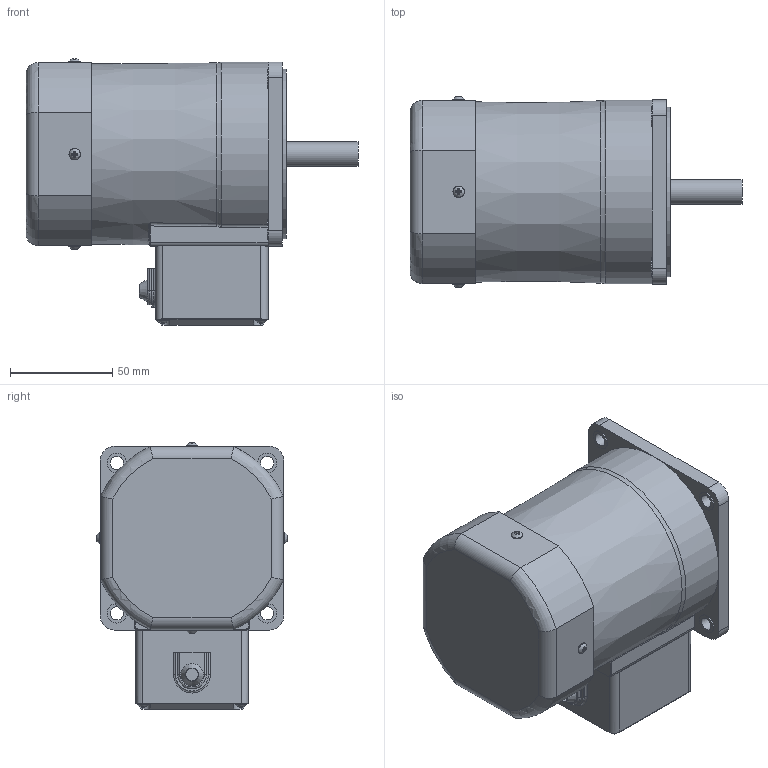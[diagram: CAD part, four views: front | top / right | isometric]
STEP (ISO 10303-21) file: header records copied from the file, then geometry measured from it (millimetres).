
FILE_DESCRIPTION((''),'2;1');
FILE_NAME('D:\STP파일\60W MOTOR\T1 BOX TYPE\S9I60S-T1.stp','2013-05-20T18:11:38',('leebh'),(''),'Autodesk Inventor 2011','Autodesk Inventor 2011','');
FILE_SCHEMA(('AUTOMOTIVE_DESIGN { 1 0 10303 214 1 1 1 1 }'));
Length unit declared in the file: millimetre
Products named in the file (1): 부품1
Bounding box: 162.41 x 93.49 x 130.55 mm (x, y, z)
Volume: 945110.6 mm3; surface area: 67685.2 mm2
Topology: 1 solids, 6 shells, 323 faces, 807 edges, 514 vertices
Faces by surface type: plane 186, cylinder 77, torus 27, bspline 26, cone 7
Full cylindrical faces by diameter (mm): 3 x4, 3.5 x4, 5.6 x8, 6.5 x4, 8 x1, 9.5 x4, 12 x1, 40 x1, 83 x1
Entity records: 10410 total; most frequent: CARTESIAN_POINT 3020, ORIENTED_EDGE 1468, DIRECTION 1398, EDGE_CURVE 734, AXIS2_PLACEMENT_3D 505, VERTEX_POINT 503, EDGE_LOOP 417, VECTOR 388
